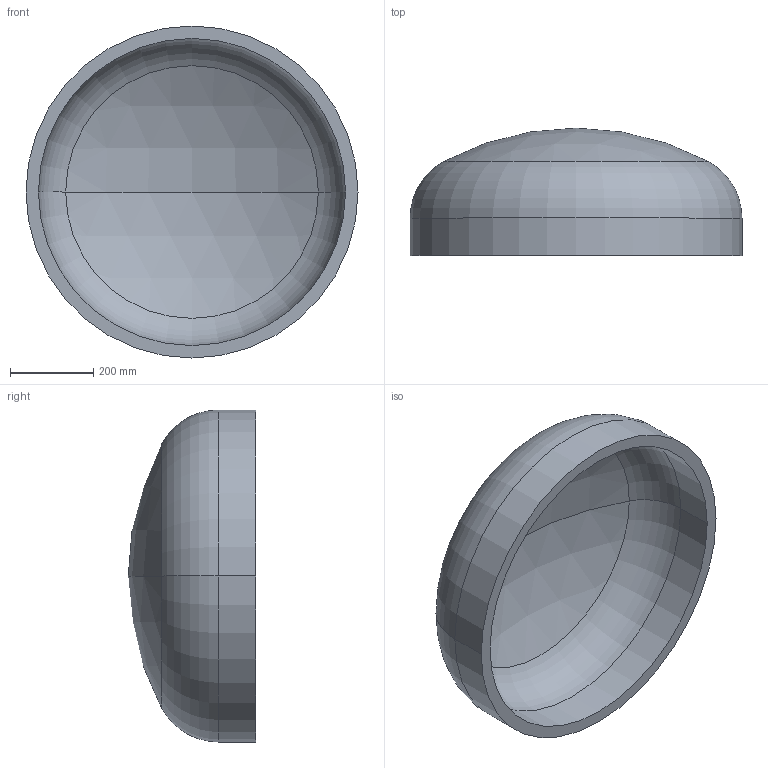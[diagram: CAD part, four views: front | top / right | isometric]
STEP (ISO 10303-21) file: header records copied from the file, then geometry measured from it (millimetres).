
FILE_DESCRIPTION (( 'STEP AP203' ), '1' );
FILE_NAME ('DIN 28013 Korbbogenform_-_Boden DIN 28013 - 800 x 90 - I - s=30.step', '2016-07-01T08:15:09', ( '' ), ( '' ), 'SwSTEP 2.0', 'SolidWorks 2013', '' );
FILE_SCHEMA (( 'CONFIG_CONTROL_DESIGN' ));
Length unit declared in the file: millimetre
Products named in the file (1): DIN 28013 Korbbogenform_-_Boden DIN 28013 - 800 x 90 - I - s=30
Bounding box: 800 x 307.01 x 800 mm (x, y, z)
Volume: 26482780.3 mm3; surface area: 1839974 mm2
Topology: 1 solids, 1 shells, 13 faces, 24 edges, 14 vertices
Faces by surface type: torus 4, cylinder 4, sphere 4, plane 1
Entity records: 407 total; most frequent: DIRECTION 72, CARTESIAN_POINT 52, ORIENTED_EDGE 48, AXIS2_PLACEMENT_3D 34, EDGE_CURVE 24, CIRCLE 20, EDGE_LOOP 14, VERTEX_POINT 14
